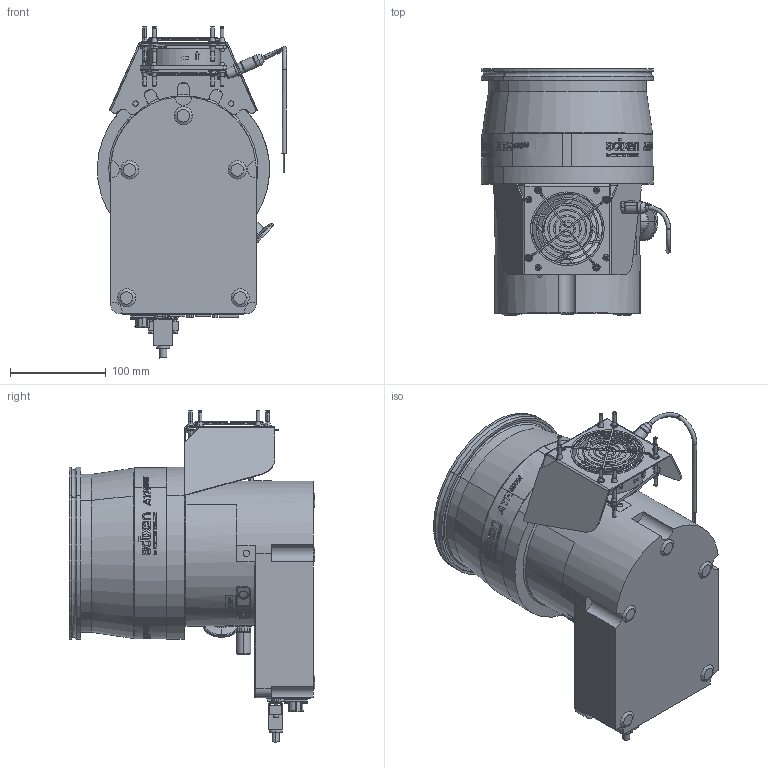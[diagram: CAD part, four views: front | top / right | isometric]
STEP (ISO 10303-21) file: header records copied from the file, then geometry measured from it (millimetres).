
FILE_DESCRIPTION((''),'2;1');
FILE_NAME('CREO10000223284','2020-08-13T',('mvitello'),(''),'PRO/ENGINEER BY PARAMETRIC TECHNOLOGY CORPORATION, 2015280','PRO/ENGINEER BY PARAMETRIC TECHNOLOGY CORPORATION, 2015280','');
FILE_SCHEMA(('CONFIG_CONTROL_DESIGN'));
Products named in the file (1): CREO10000223284
Bounding box: 197.94 x 256.99 x 346.93 mm (x, y, z)
Volume: 6215892.7 mm3; surface area: 364760.4 mm2
Topology: 18 solids, 83 shells, 4369 faces, 11397 edges, 7439 vertices
Faces by surface type: plane 1927, bspline 1286, cylinder 884, torus 154, cone 102, sphere 16
Entity records: 160982 total; most frequent: CARTESIAN_POINT 59207, ORIENTED_EDGE 22778, DIRECTION 18174, EDGE_CURVE 11389, VERTEX_POINT 7439, AXIS2_PLACEMENT_3D 6070, VECTOR 6034, LINE 6034
